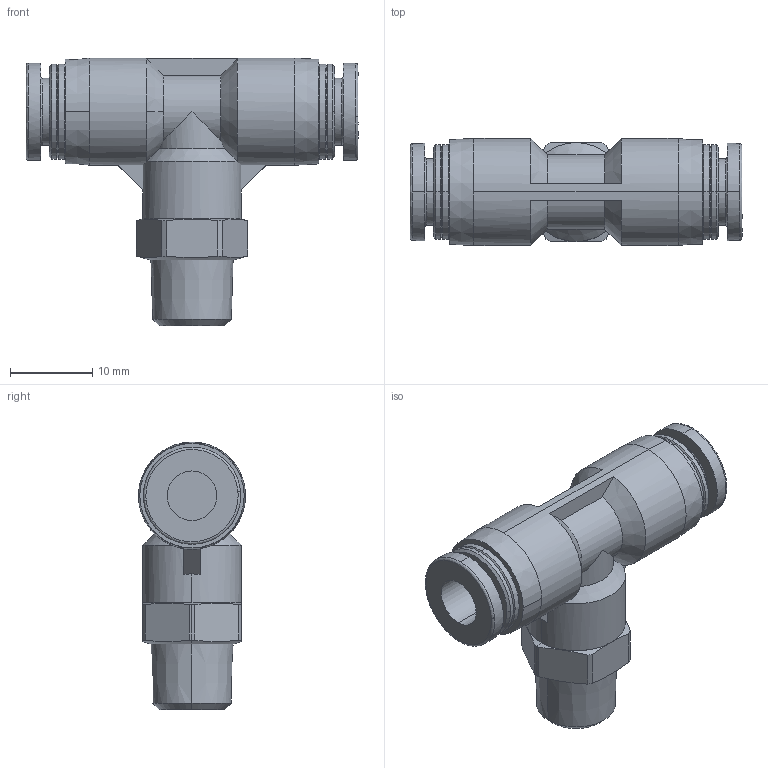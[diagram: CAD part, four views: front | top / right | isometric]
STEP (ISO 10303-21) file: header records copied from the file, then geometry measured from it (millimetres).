
FILE_DESCRIPTION (( 'STEP AP214' ), '1' );
FILE_NAME ('KQ2T06-01AS.STEP', '2023-03-06T09:41:36', ( 'Windows User' ), ( 'P R C' ), 'SwSTEP 2.0', 'SolidWorks 2019', '' );
FILE_SCHEMA (( 'AUTOMOTIVE_DESIGN' ));
Length unit declared in the file: millimetre
Products named in the file (1): KQ2T06-01AS
Bounding box: 40.3 x 13 x 32.5 mm (x, y, z)
Volume: 5576.8 mm3; surface area: 3494 mm2
Topology: 1 solids, 1 shells, 111 faces, 292 edges, 192 vertices
Faces by surface type: cone 42, cylinder 35, plane 26, bspline 8
Entity records: 3913 total; most frequent: CARTESIAN_POINT 1166, ORIENTED_EDGE 584, DIRECTION 580, EDGE_CURVE 292, AXIS2_PLACEMENT_3D 245, VERTEX_POINT 192, CIRCLE 141, EDGE_LOOP 120
